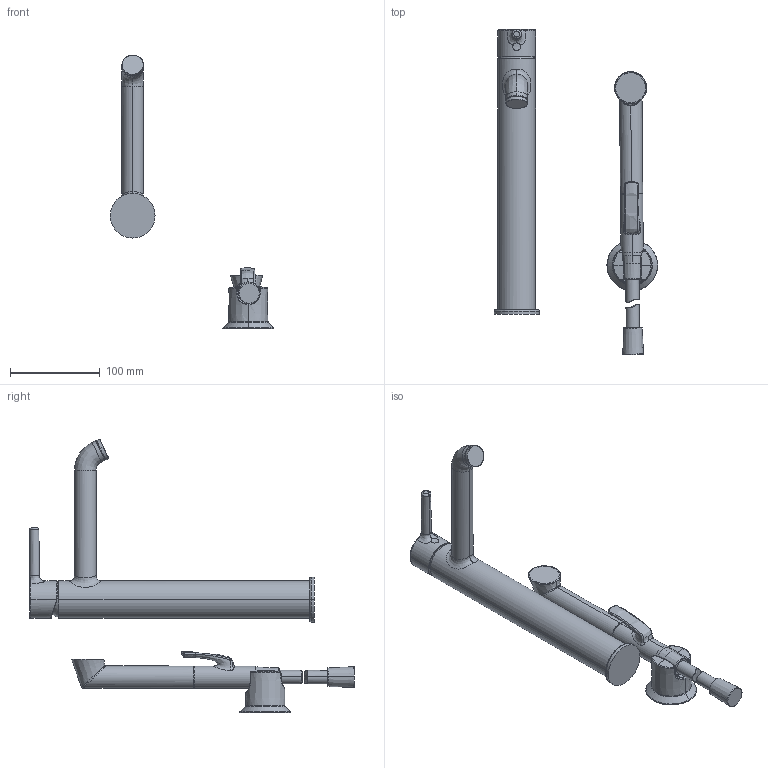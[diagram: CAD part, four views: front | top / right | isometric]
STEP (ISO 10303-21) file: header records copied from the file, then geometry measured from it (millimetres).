
FILE_DESCRIPTION (( 'STEP AP203' ), '1' );
FILE_NAME ('2602FH(2022).STEP', '2022-01-11T14:11:42', ( '' ), ( '' ), 'SwSTEP 2.0', 'SolidWorks 2016', '' );
FILE_SCHEMA (( 'CONFIG_CONTROL_DESIGN' ));
Length unit declared in the file: millimetre
Products named in the file (1): 2602FH(2022)
Bounding box: 182.32 x 362.56 x 305.48 mm (x, y, z)
Volume: 731277.4 mm3; surface area: 109210.8 mm2
Topology: 10 solids, 10 shells, 195 faces, 459 edges, 290 vertices
Faces by surface type: bspline 91, cylinder 28, plane 28, torus 27, cone 14, sphere 7
Entity records: 28703 total; most frequent: CARTESIAN_POINT 24881, ORIENTED_EDGE 914, DIRECTION 576, EDGE_CURVE 457, VERTEX_POINT 289, AXIS2_PLACEMENT_3D 263, B_SPLINE_CURVE_WITH_KNOTS 232, EDGE_LOOP 202
